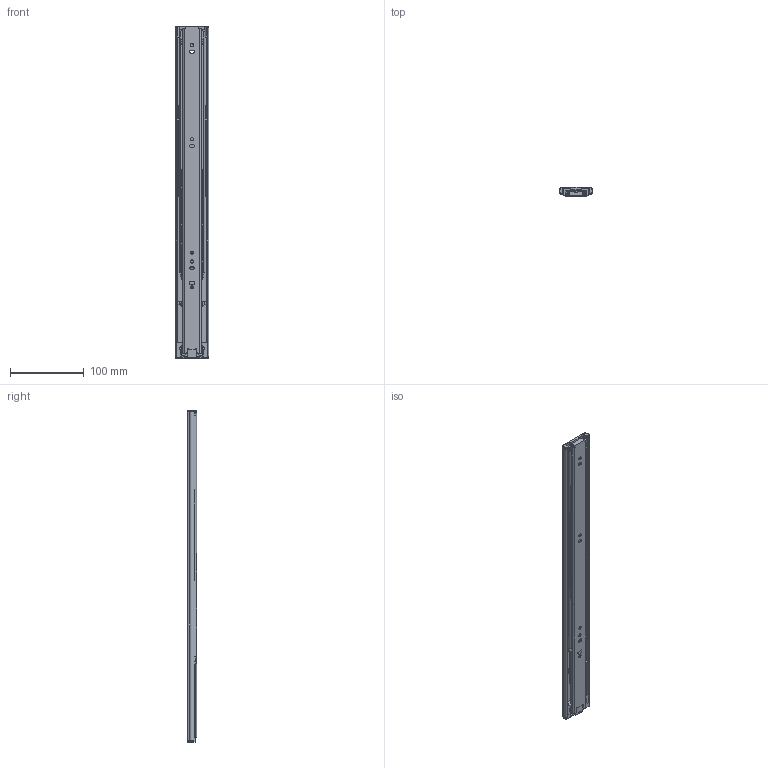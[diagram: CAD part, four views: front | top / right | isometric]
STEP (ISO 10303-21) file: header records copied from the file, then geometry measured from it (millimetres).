
FILE_DESCRIPTION((''),'2;1');
FILE_NAME('C:\Users\Jennes.SOLINGEN\Desktop\Melches\NeueFormate\TS 454613-450 SC\TS 454613 - 450mm SC.stp','2011-01-20T11:27:31',('jennes'),(''),'Autodesk Inventor 2010','Autodesk Inventor 2010','');
FILE_SCHEMA(('AUTOMOTIVE_DESIGN { 1 0 10303 214 1 1 1 1 }'));
Length unit declared in the file: millimetre
Products named in the file (24): TS 454613 - 450mm SC; Schiene gross 450; Endkappe Schiene gross; Softclose; Führung für Schieber; Gummi Puffer; Schieber; Riegel; Zylinderkolben; Zylinderstange; Kugelkäfigleiste 450; Kugel 4,75mm; Schiene mittig 450; Endkappe Schiene mittig; Kugelkäfig 450; Schiene schmall 450; Niete; Schliesser; Sicherung
Assembly tree (53 placements, depth 4):
  TS 454613 - 450mm SC
    Schiene gross 450
      Schiene gross 450
      Endkappe Schiene gross
      Softclose
        Führung für Schieber
        Gummi Puffer
        Schieber
        Riegel
        Zylinderkolben
        Zylinderstange
    Kugelkäfigleiste 450  x2
      Kugelkäfigleiste 450
      Kugel 4,75mm
    Schiene mittig 450
      Schiene mittig 450
      Endkappe Schiene mittig
    Kugelkäfig 450
      Kugelkäfig 450
      Kugel 4,75mm  x24
    Schiene schmall 450
      Schiene schmall 450
      Niete  x2
      Schliesser
      Sicherung
Bounding box: 45.98 x 12.5 x 451.1 mm (x, y, z)
Volume: 103176.9 mm3; surface area: 162666.3 mm2
Topology: 53 solids, 53 shells, 1669 faces, 4829 edges, 3083 vertices
Faces by surface type: plane 945, cylinder 569, sphere 58, torus 49, bspline 48
Full cylindrical faces by diameter (mm): 1.15 x1, 1.78 x2, 1.8 x1, 2.35 x2, 2.45 x1, 3 x2, 3.3 x2, 4.2 x2, 4.4 x3, 4.6 x5, 4.95 x10, 5 x4, 5.3 x1, 5.4 x1, 6.4 x3, 7.8 x2, 9 x1, 9.3 x1, 9.55 x1, 11 x6
Entity records: 54675 total; most frequent: CARTESIAN_POINT 11254, ORIENTED_EDGE 9052, DIRECTION 8849, EDGE_CURVE 4526, VECTOR 3265, LINE 3265, VERTEX_POINT 2946, AXIS2_PLACEMENT_3D 2792
